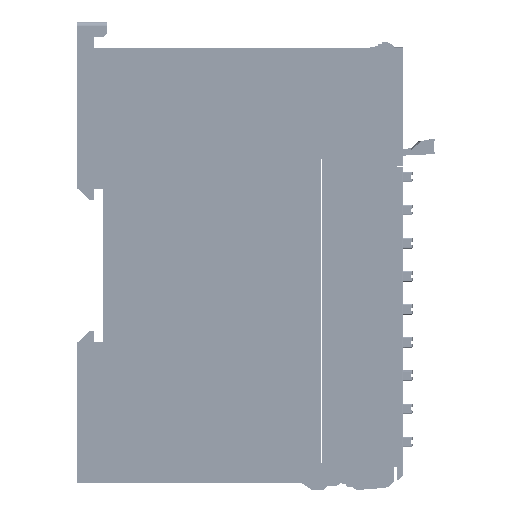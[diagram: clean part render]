
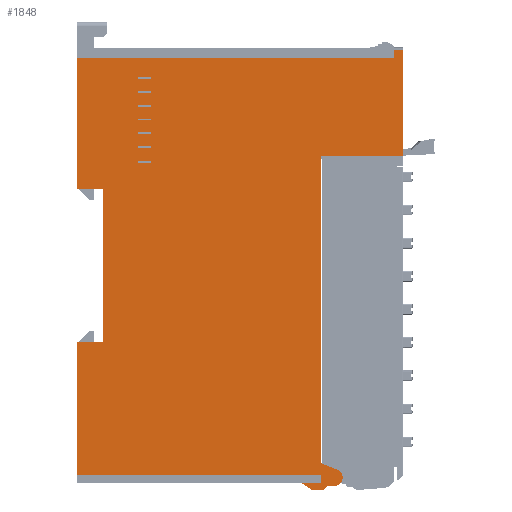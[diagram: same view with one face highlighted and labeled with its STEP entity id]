
A CAD part, left-side view. The second image highlights one B-rep face of the part: STEP entity #1848.
In plain terms, the highlighted planar face has unit normal (-1, 0, 0).
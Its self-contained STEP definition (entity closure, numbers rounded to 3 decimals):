
#1848=ADVANCED_FACE('',(#9037),#135650,.T.);
#9037=FACE_OUTER_BOUND('',#16231,.T.);
#16231=EDGE_LOOP('',(#24095,#24096,#24097,#24098,#24099,#24100,#24101,#24102,
#24103,#24104,#24105,#24106,#24107,#24108,#24109,#24110,#24111,#24112,#24113,
#24114));
#24095=ORIENTED_EDGE('',*,*,#66106,.T.);
#24096=ORIENTED_EDGE('',*,*,#66120,.T.);
#24097=ORIENTED_EDGE('',*,*,#66119,.T.);
#24098=ORIENTED_EDGE('',*,*,#66118,.T.);
#24099=ORIENTED_EDGE('',*,*,#66117,.T.);
#24100=ORIENTED_EDGE('',*,*,#66116,.T.);
#24101=ORIENTED_EDGE('',*,*,#66115,.T.);
#24102=ORIENTED_EDGE('',*,*,#66114,.T.);
#24103=ORIENTED_EDGE('',*,*,#66046,.F.);
#24104=ORIENTED_EDGE('',*,*,#66103,.F.);
#24105=ORIENTED_EDGE('',*,*,#66113,.T.);
#24106=ORIENTED_EDGE('',*,*,#66377,.T.);
#24107=ORIENTED_EDGE('',*,*,#66112,.T.);
#24108=ORIENTED_EDGE('',*,*,#66372,.T.);
#24109=ORIENTED_EDGE('',*,*,#66369,.T.);
#24110=ORIENTED_EDGE('',*,*,#66111,.T.);
#24111=ORIENTED_EDGE('',*,*,#66110,.T.);
#24112=ORIENTED_EDGE('',*,*,#66109,.T.);
#24113=ORIENTED_EDGE('',*,*,#66108,.T.);
#24114=ORIENTED_EDGE('',*,*,#66107,.T.);
#66046=EDGE_CURVE('',#117195,#117194,#91538,.T.);
#66103=EDGE_CURVE('',#117255,#117195,#91595,.T.);
#66106=EDGE_CURVE('',#117256,#117257,#91598,.T.);
#66107=EDGE_CURVE('',#117258,#117256,#91599,.T.);
#66108=EDGE_CURVE('',#117259,#117258,#91600,.T.);
#66109=EDGE_CURVE('',#117260,#117259,#91601,.T.);
#66110=EDGE_CURVE('',#117261,#117260,#91602,.T.);
#66111=EDGE_CURVE('',#117262,#117261,#91603,.T.);
#66112=EDGE_CURVE('',#117265,#117264,#91604,.T.);
#66113=EDGE_CURVE('',#117255,#117266,#91605,.T.);
#66114=EDGE_CURVE('',#117267,#117194,#91606,.T.);
#66115=EDGE_CURVE('',#117268,#117267,#91607,.T.);
#66116=EDGE_CURVE('',#117269,#117268,#91608,.T.);
#66117=EDGE_CURVE('',#117270,#117269,#91609,.T.);
#66118=EDGE_CURVE('',#117271,#117270,#91610,.T.);
#66119=EDGE_CURVE('',#117272,#117271,#91611,.T.);
#66120=EDGE_CURVE('',#117257,#117272,#91612,.T.);
#66369=EDGE_CURVE('',#117263,#117262,#91857,.T.);
#66372=EDGE_CURVE('',#117264,#117263,#112773,.T.);
#66377=EDGE_CURVE('',#117266,#117265,#91863,.T.);
#91538=B_SPLINE_CURVE_WITH_KNOTS('',1,(#158708,#158709),.UNSPECIFIED.,.F.,
 .F.,(2,2),(-4.531,0.),.UNSPECIFIED.);
#91595=B_SPLINE_CURVE_WITH_KNOTS('',1,(#158822,#158823),.UNSPECIFIED.,.F.,
 .F.,(2,2),(-2.634,0.),.UNSPECIFIED.);
#91598=B_SPLINE_CURVE_WITH_KNOTS('',1,(#158828,#158829),.UNSPECIFIED.,.F.,
 .F.,(2,2),(-73.,0.),.UNSPECIFIED.);
#91599=B_SPLINE_CURVE_WITH_KNOTS('',1,(#158830,#158831),.UNSPECIFIED.,.F.,
 .F.,(2,2),(-1.05,0.),.UNSPECIFIED.);
#91600=B_SPLINE_CURVE_WITH_KNOTS('',1,(#158832,#158833),.UNSPECIFIED.,.F.,
 .F.,(2,2),(-2.,0.),.UNSPECIFIED.);
#91601=B_SPLINE_CURVE_WITH_KNOTS('',1,(#158834,#158835),.UNSPECIFIED.,.F.,
 .F.,(2,2),(-24.25,0.),.UNSPECIFIED.);
#91602=B_SPLINE_CURVE_WITH_KNOTS('',1,(#158836,#158837),.UNSPECIFIED.,.F.,
 .F.,(2,2),(-18.729,0.),.UNSPECIFIED.);
#91603=B_SPLINE_CURVE_WITH_KNOTS('',1,(#158838,#158839),.UNSPECIFIED.,.F.,
 .F.,(2,2),(-70.796,0.),.UNSPECIFIED.);
#91604=B_SPLINE_CURVE_WITH_KNOTS('',1,(#158840,#158841),.UNSPECIFIED.,.F.,
 .F.,(2,2),(-1.656,0.),.UNSPECIFIED.);
#91605=B_SPLINE_CURVE_WITH_KNOTS('',1,(#158842,#158843),.UNSPECIFIED.,.F.,
 .F.,(2,2),(-2.785,0.),.UNSPECIFIED.);
#91606=B_SPLINE_CURVE_WITH_KNOTS('',1,(#158844,#158845),.UNSPECIFIED.,.F.,
 .F.,(2,2),(-1.1,0.),.UNSPECIFIED.);
#91607=B_SPLINE_CURVE_WITH_KNOTS('',1,(#158846,#158847),.UNSPECIFIED.,.F.,
 .F.,(2,2),(-56.271,0.),.UNSPECIFIED.);
#91608=B_SPLINE_CURVE_WITH_KNOTS('',1,(#158848,#158849),.UNSPECIFIED.,.F.,
 .F.,(2,2),(-31.522,0.),.UNSPECIFIED.);
#91609=B_SPLINE_CURVE_WITH_KNOTS('',1,(#158850,#158851),.UNSPECIFIED.,.F.,
 .F.,(2,2),(-6.,0.),.UNSPECIFIED.);
#91610=B_SPLINE_CURVE_WITH_KNOTS('',1,(#158852,#158853),.UNSPECIFIED.,.F.,
 .F.,(2,2),(-35.,0.),.UNSPECIFIED.);
#91611=B_SPLINE_CURVE_WITH_KNOTS('',1,(#158854,#158855),.UNSPECIFIED.,.F.,
 .F.,(2,2),(-6.,0.),.UNSPECIFIED.);
#91612=B_SPLINE_CURVE_WITH_KNOTS('',1,(#158856,#158857),.UNSPECIFIED.,.F.,
 .F.,(2,2),(-30.95,0.),.UNSPECIFIED.);
#91857=B_SPLINE_CURVE_WITH_KNOTS('',1,(#159358,#159359),.UNSPECIFIED.,.F.,
 .F.,(2,2),(0.,3.909),.UNSPECIFIED.);
#91863=B_SPLINE_CURVE_WITH_KNOTS('',1,(#159380,#159381),.UNSPECIFIED.,.F.,
 .F.,(2,2),(0.,1.129),.UNSPECIFIED.);
#112773=(
BOUNDED_CURVE()
B_SPLINE_CURVE(2,(#159367,#159368,#159369,#159370,#159371),
 .UNSPECIFIED.,.F.,.F.)
B_SPLINE_CURVE_WITH_KNOTS((3,2,3),(0.,2.708,5.416),
 .UNSPECIFIED.)
CURVE()
GEOMETRIC_REPRESENTATION_ITEM()
RATIONAL_B_SPLINE_CURVE((1.,0.771,1.,0.771,1.))
REPRESENTATION_ITEM('')
);
#117194=VERTEX_POINT('',#157109);
#117195=VERTEX_POINT('',#157110);
#117255=VERTEX_POINT('',#157170);
#117256=VERTEX_POINT('',#157171);
#117257=VERTEX_POINT('',#157172);
#117258=VERTEX_POINT('',#157173);
#117259=VERTEX_POINT('',#157174);
#117260=VERTEX_POINT('',#157175);
#117261=VERTEX_POINT('',#157176);
#117262=VERTEX_POINT('',#157177);
#117263=VERTEX_POINT('',#157178);
#117264=VERTEX_POINT('',#157179);
#117265=VERTEX_POINT('',#157180);
#117266=VERTEX_POINT('',#157181);
#117267=VERTEX_POINT('',#157182);
#117268=VERTEX_POINT('',#157183);
#117269=VERTEX_POINT('',#157184);
#117270=VERTEX_POINT('',#157185);
#117271=VERTEX_POINT('',#157186);
#117272=VERTEX_POINT('',#157187);
#135650=PLANE('',#142634);
#142634=AXIS2_PLACEMENT_3D('',#156262,#149446,$);
#149446=DIRECTION('',(-1.,0.,0.));
#156262=CARTESIAN_POINT('',(129.374,-92.954,-1.57));
#157109=CARTESIAN_POINT('',(129.374,-74.225,-0.122));
#157110=CARTESIAN_POINT('',(129.374,-69.693,-0.122));
#157170=CARTESIAN_POINT('',(129.374,-71.893,-1.57));
#157171=CARTESIAN_POINT('',(129.374,-90.954,98.45));
#157172=CARTESIAN_POINT('',(129.374,-17.954,98.45));
#157173=CARTESIAN_POINT('',(129.374,-90.954,99.5));
#157174=CARTESIAN_POINT('',(129.374,-92.954,99.5));
#157175=CARTESIAN_POINT('',(129.374,-92.954,75.25));
#157176=CARTESIAN_POINT('',(129.374,-74.225,75.25));
#157177=CARTESIAN_POINT('',(129.374,-74.225,4.454));
#157178=CARTESIAN_POINT('',(129.374,-77.857,3.01));
#157179=CARTESIAN_POINT('',(129.374,-77.133,-0.772));
#157180=CARTESIAN_POINT('',(129.374,-75.477,-0.772));
#157181=CARTESIAN_POINT('',(129.374,-74.679,-1.57));
#157182=CARTESIAN_POINT('',(129.374,-74.225,0.978));
#157183=CARTESIAN_POINT('',(129.374,-17.954,0.978));
#157184=CARTESIAN_POINT('',(129.374,-17.954,32.5));
#157185=CARTESIAN_POINT('',(129.374,-23.954,32.5));
#157186=CARTESIAN_POINT('',(129.374,-23.954,67.5));
#157187=CARTESIAN_POINT('',(129.374,-17.954,67.5));
#158708=CARTESIAN_POINT('',(129.374,-69.693,-0.122));
#158709=CARTESIAN_POINT('',(129.374,-74.225,-0.122));
#158822=CARTESIAN_POINT('',(129.374,-71.893,-1.57));
#158823=CARTESIAN_POINT('',(129.374,-69.693,-0.122));
#158828=CARTESIAN_POINT('',(129.374,-90.954,98.45));
#158829=CARTESIAN_POINT('',(129.374,-17.954,98.45));
#158830=CARTESIAN_POINT('',(129.374,-90.954,99.5));
#158831=CARTESIAN_POINT('',(129.374,-90.954,98.45));
#158832=CARTESIAN_POINT('',(129.374,-92.954,99.5));
#158833=CARTESIAN_POINT('',(129.374,-90.954,99.5));
#158834=CARTESIAN_POINT('',(129.374,-92.954,75.25));
#158835=CARTESIAN_POINT('',(129.374,-92.954,99.5));
#158836=CARTESIAN_POINT('',(129.374,-74.225,75.25));
#158837=CARTESIAN_POINT('',(129.374,-92.954,75.25));
#158838=CARTESIAN_POINT('',(129.374,-74.225,4.454));
#158839=CARTESIAN_POINT('',(129.374,-74.225,75.25));
#158840=CARTESIAN_POINT('',(129.374,-75.477,-0.772));
#158841=CARTESIAN_POINT('',(129.374,-77.133,-0.772));
#158842=CARTESIAN_POINT('',(129.374,-71.893,-1.57));
#158843=CARTESIAN_POINT('',(129.374,-74.679,-1.57));
#158844=CARTESIAN_POINT('',(129.374,-74.225,0.978));
#158845=CARTESIAN_POINT('',(129.374,-74.225,-0.122));
#158846=CARTESIAN_POINT('',(129.374,-17.954,0.978));
#158847=CARTESIAN_POINT('',(129.374,-74.225,0.978));
#158848=CARTESIAN_POINT('',(129.374,-17.954,32.5));
#158849=CARTESIAN_POINT('',(129.374,-17.954,0.978));
#158850=CARTESIAN_POINT('',(129.374,-23.954,32.5));
#158851=CARTESIAN_POINT('',(129.374,-17.954,32.5));
#158852=CARTESIAN_POINT('',(129.374,-23.954,67.5));
#158853=CARTESIAN_POINT('',(129.374,-23.954,32.5));
#158854=CARTESIAN_POINT('',(129.374,-17.954,67.5));
#158855=CARTESIAN_POINT('',(129.374,-23.954,67.5));
#158856=CARTESIAN_POINT('',(129.374,-17.954,98.45));
#158857=CARTESIAN_POINT('',(129.374,-17.954,67.5));
#159358=CARTESIAN_POINT('',(129.374,-77.857,3.01));
#159359=CARTESIAN_POINT('',(129.374,-74.225,4.454));
#159367=CARTESIAN_POINT('',(129.374,-77.133,-0.772));
#159368=CARTESIAN_POINT('',(129.374,-78.753,-0.772));
#159369=CARTESIAN_POINT('',(129.374,-79.058,0.82));
#159370=CARTESIAN_POINT('',(129.374,-79.363,2.411));
#159371=CARTESIAN_POINT('',(129.374,-77.857,3.01));
#159380=CARTESIAN_POINT('',(129.374,-74.679,-1.57));
#159381=CARTESIAN_POINT('',(129.374,-75.477,-0.772));
